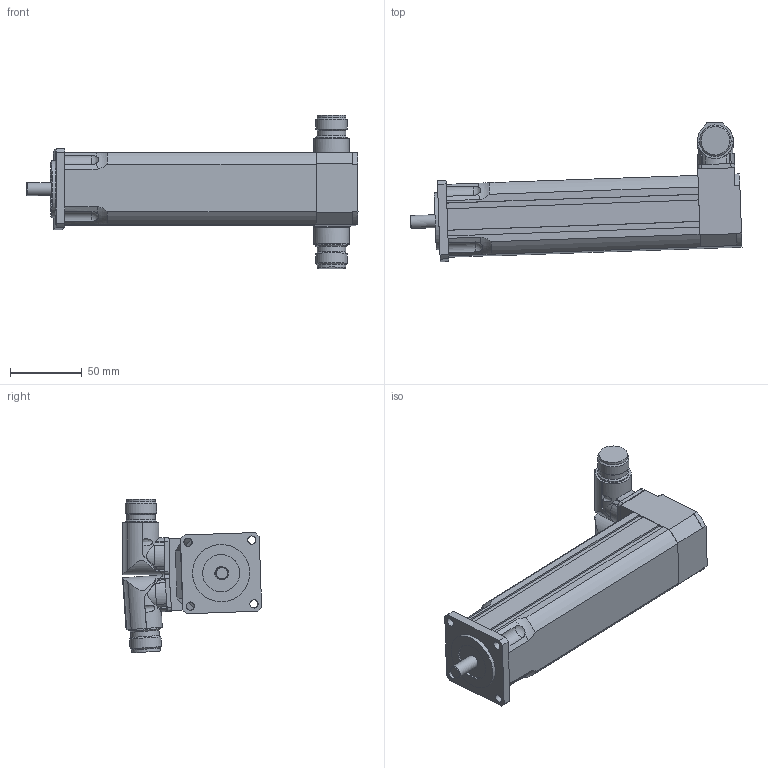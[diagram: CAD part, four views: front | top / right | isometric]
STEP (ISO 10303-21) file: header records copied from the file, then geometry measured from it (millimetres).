
FILE_DESCRIPTION(/* description */ ('Alibre Inc.'),/* implementation_level */ '2;1');
FILE_NAME(/* name */ 'export0',/* time_stamp */ '2011-07-28T08:20:40+02:00',/* author */ (''),/* organization */ (''),/* preprocessor_version */ 'ST-DEVELOPER v12',/* originating_system */ 'Alibre',/* authorisation */ '');
FILE_SCHEMA (('AUTOMOTIVE_DESIGN'));
Length unit declared in the file: millimetre
Products named in the file (4): ID_1
Bounding box: 231.89 x 97.27 x 107.52 mm (x, y, z)
Volume: 554646.8 mm3; surface area: 70834 mm2
Topology: 4 solids, 4 shells, 227 faces, 614 edges, 405 vertices
Faces by surface type: cylinder 113, plane 89, bspline 10, cone 7, sphere 4, torus 4
Full cylindrical faces by diameter (mm): 2.7 x8, 9 x1, 20 x6, 22 x4, 26 x1, 40 x1
Entity records: 5790 total; most frequent: CARTESIAN_POINT 1792, ORIENTED_EDGE 808, DIRECTION 770, EDGE_CURVE 404, AXIS2_PLACEMENT_3D 319, VERTEX_POINT 281, EDGE_LOOP 205, FACE_BOUND 205
